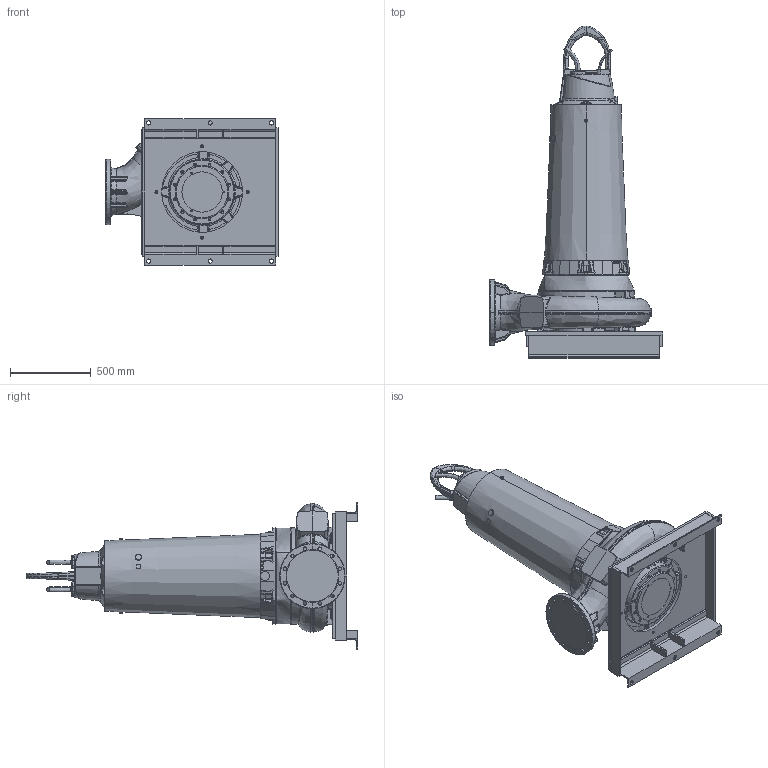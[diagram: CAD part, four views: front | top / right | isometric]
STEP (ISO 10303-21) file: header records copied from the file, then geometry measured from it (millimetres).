
FILE_DESCRIPTION (( 'STEP AP214' ), '1' );
FILE_NAME ('PE5_XFP250M-CH2_DRY_B_NG2.STEP', '2017-03-08T14:02:25', ( '' ), ( '' ), 'SwSTEP 2.0', 'SolidWorks 2017', '' );
FILE_SCHEMA (( 'AUTOMOTIVE_DESIGN' ));
Length unit declared in the file: millimetre
Products named in the file (1): PE5_XFP250M-CH2_DRY_B_NG2
Bounding box: 1075 x 2053.97 x 905 mm (x, y, z)
Volume: 369166691.1 mm3; surface area: 6077434.4 mm2
Topology: 3 solids, 15 shells, 1921 faces, 4753 edges, 2813 vertices
Faces by surface type: bspline 648, cylinder 487, plane 404, cone 209, torus 117, sphere 56
Entity records: 142744 total; most frequent: CARTESIAN_POINT 82047, ORIENTED_EDGE 9312, DIRECTION 6799, EDGE_CURVE 4656, VERTEX_POINT 2811, AXIS2_PLACEMENT_3D 2733, EDGE_LOOP 2039, UNCERTAINTY_MEASURE_WITH_UNIT 1926
